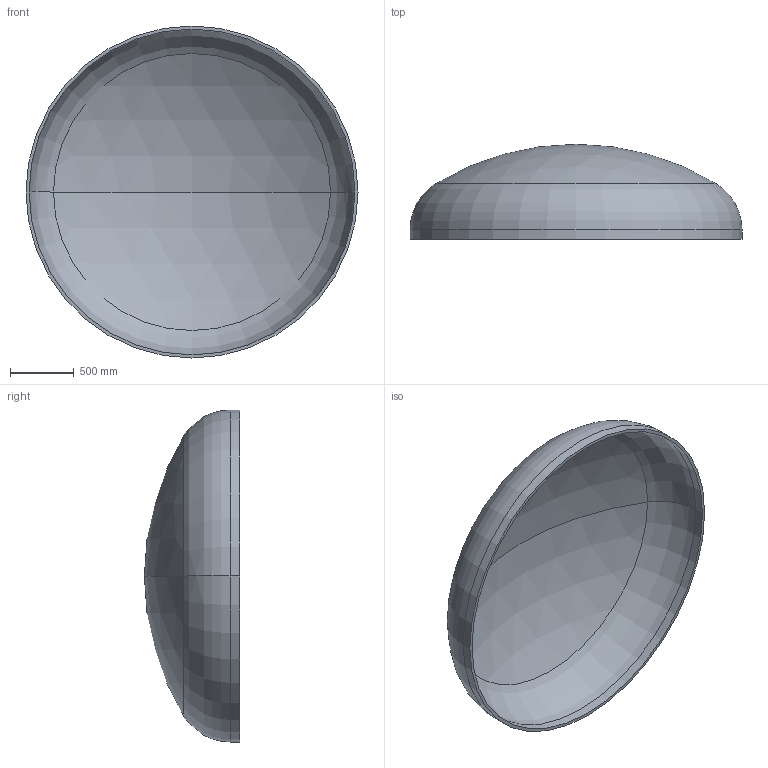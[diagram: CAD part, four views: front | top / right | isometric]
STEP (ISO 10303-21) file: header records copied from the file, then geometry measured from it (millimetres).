
FILE_DESCRIPTION (( 'STEP AP203' ), '1' );
FILE_NAME ('DIN 28013 Korbbogenform_-_Boden DIN 28013 - 2600 x 75 - I - s=24.step', '2016-07-01T16:01:27', ( '' ), ( '' ), 'SwSTEP 2.0', 'SolidWorks 2013', '' );
FILE_SCHEMA (( 'CONFIG_CONTROL_DESIGN' ));
Length unit declared in the file: millimetre
Products named in the file (1): DIN 28013 Korbbogenform_-_Boden DIN 28013 - 2600 x 75 - I - s=24
Bounding box: 2600 x 745.46 x 2600 mm (x, y, z)
Volume: 188870857.3 mm3; surface area: 15934664.4 mm2
Topology: 1 solids, 1 shells, 13 faces, 24 edges, 14 vertices
Faces by surface type: torus 4, cylinder 4, sphere 4, plane 1
Entity records: 407 total; most frequent: DIRECTION 72, CARTESIAN_POINT 52, ORIENTED_EDGE 48, AXIS2_PLACEMENT_3D 34, EDGE_CURVE 24, CIRCLE 20, EDGE_LOOP 14, VERTEX_POINT 14
